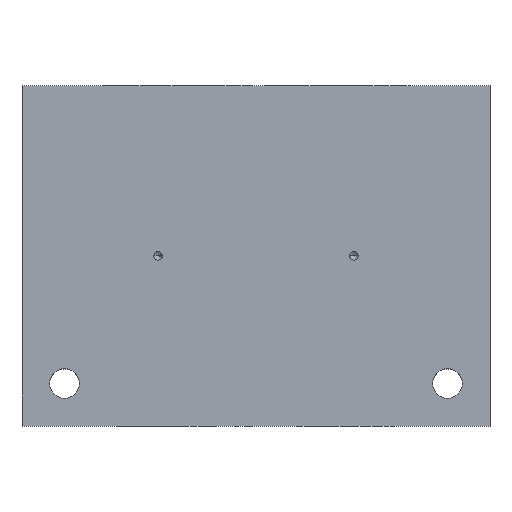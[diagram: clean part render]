
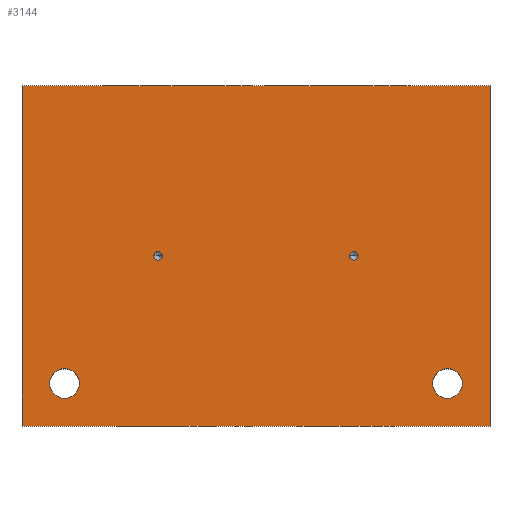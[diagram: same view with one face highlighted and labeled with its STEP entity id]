
A CAD part, top view. The second image highlights one B-rep face of the part: STEP entity #3144.
In plain terms, the highlighted planar face has unit normal (0, 0, 1).
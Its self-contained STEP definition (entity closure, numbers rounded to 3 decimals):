
#41=DIRECTION('',(0.,-1.,0.));
#42=VECTOR('',#41,80.);
#43=CARTESIAN_POINT('',(0.,80.,0.));
#44=LINE('',#43,#42);
#64=DIRECTION('',(1.,0.,0.));
#65=VECTOR('',#64,110.);
#66=CARTESIAN_POINT('',(0.,0.,0.));
#67=LINE('',#66,#65);
#103=DIRECTION('',(1.,0.,0.));
#104=VECTOR('',#103,110.);
#105=CARTESIAN_POINT('',(0.,80.,0.));
#106=LINE('',#105,#104);
#110=CARTESIAN_POINT('',(32.,40.,0.));
#111=DIRECTION('',(0.,0.,1.));
#112=DIRECTION('',(-1.,0.,0.));
#113=AXIS2_PLACEMENT_3D('',#110,#111,#112);
#118=CARTESIAN_POINT('',(32.,40.,0.));
#119=DIRECTION('',(0.,0.,1.));
#120=DIRECTION('',(1.,0.,0.));
#121=AXIS2_PLACEMENT_3D('',#118,#119,#120);
#126=CARTESIAN_POINT('',(78.,40.,0.));
#127=DIRECTION('',(0.,0.,1.));
#128=DIRECTION('',(-1.,0.,0.));
#129=AXIS2_PLACEMENT_3D('',#126,#127,#128);
#134=CARTESIAN_POINT('',(78.,40.,0.));
#135=DIRECTION('',(0.,0.,1.));
#136=DIRECTION('',(1.,0.,0.));
#137=AXIS2_PLACEMENT_3D('',#134,#135,#136);
#142=CARTESIAN_POINT('',(10.,10.,0.));
#143=DIRECTION('',(0.,0.,-1.));
#144=DIRECTION('',(-1.,0.,0.));
#145=AXIS2_PLACEMENT_3D('',#142,#143,#144);
#150=CARTESIAN_POINT('',(10.,10.,0.));
#151=DIRECTION('',(0.,0.,-1.));
#152=DIRECTION('',(1.,0.,0.));
#153=AXIS2_PLACEMENT_3D('',#150,#151,#152);
#158=CARTESIAN_POINT('',(100.,10.,0.));
#159=DIRECTION('',(0.,0.,-1.));
#160=DIRECTION('',(-1.,0.,0.));
#161=AXIS2_PLACEMENT_3D('',#158,#159,#160);
#166=CARTESIAN_POINT('',(100.,10.,0.));
#167=DIRECTION('',(0.,0.,-1.));
#168=DIRECTION('',(1.,0.,0.));
#169=AXIS2_PLACEMENT_3D('',#166,#167,#168);
#259=DIRECTION('',(0.,-1.,0.));
#260=VECTOR('',#259,80.);
#261=CARTESIAN_POINT('',(110.,80.,0.));
#262=LINE('',#261,#260);
#2766=CARTESIAN_POINT('',(0.,0.,0.));
#2768=VERTEX_POINT('',#2766);
#2772=CARTESIAN_POINT('',(0.,80.,0.));
#2773=VERTEX_POINT('',#2772);
#2774=CARTESIAN_POINT('',(110.,0.,0.));
#2776=VERTEX_POINT('',#2774);
#2780=CARTESIAN_POINT('',(110.,80.,0.));
#2781=VERTEX_POINT('',#2780);
#3004=CARTESIAN_POINT('',(31.,40.,0.));
#3005=CARTESIAN_POINT('',(33.,40.,0.));
#3006=VERTEX_POINT('',#3004);
#3007=VERTEX_POINT('',#3005);
#3014=CARTESIAN_POINT('',(77.,40.,0.));
#3015=CARTESIAN_POINT('',(79.,40.,0.));
#3016=VERTEX_POINT('',#3014);
#3017=VERTEX_POINT('',#3015);
#3022=CARTESIAN_POINT('',(6.5,10.,0.));
#3023=CARTESIAN_POINT('',(13.5,10.,0.));
#3024=VERTEX_POINT('',#3022);
#3025=VERTEX_POINT('',#3023);
#3030=CARTESIAN_POINT('',(96.5,10.,0.));
#3031=CARTESIAN_POINT('',(103.5,10.,0.));
#3032=VERTEX_POINT('',#3030);
#3033=VERTEX_POINT('',#3031);
#3107=CARTESIAN_POINT('',(0.,80.,0.));
#3108=DIRECTION('',(0.,0.,1.));
#3109=DIRECTION('',(0.,-1.,0.));
#3110=AXIS2_PLACEMENT_3D('',#3107,#3108,#3109);
#3111=PLANE('',#3110);
#3112=ORIENTED_EDGE('',*,*,#3045,.F.);
#3114=ORIENTED_EDGE('',*,*,#3113,.T.);
#3116=ORIENTED_EDGE('',*,*,#3115,.T.);
#3117=ORIENTED_EDGE('',*,*,#3074,.F.);
#3118=EDGE_LOOP('',(#3112,#3114,#3116,#3117));
#3119=FACE_OUTER_BOUND('',#3118,.F.);
#3121=ORIENTED_EDGE('',*,*,#3120,.T.);
#3123=ORIENTED_EDGE('',*,*,#3122,.T.);
#3124=EDGE_LOOP('',(#3121,#3123));
#3125=FACE_BOUND('',#3124,.F.);
#3127=ORIENTED_EDGE('',*,*,#3126,.T.);
#3129=ORIENTED_EDGE('',*,*,#3128,.T.);
#3130=EDGE_LOOP('',(#3127,#3129));
#3131=FACE_BOUND('',#3130,.F.);
#3133=ORIENTED_EDGE('',*,*,#3132,.F.);
#3135=ORIENTED_EDGE('',*,*,#3134,.F.);
#3136=EDGE_LOOP('',(#3133,#3135));
#3137=FACE_BOUND('',#3136,.F.);
#3139=ORIENTED_EDGE('',*,*,#3138,.F.);
#3141=ORIENTED_EDGE('',*,*,#3140,.F.);
#3142=EDGE_LOOP('',(#3139,#3141));
#3143=FACE_BOUND('',#3142,.F.);
#114=CIRCLE('',#113,1.);
#122=CIRCLE('',#121,1.);
#130=CIRCLE('',#129,1.);
#138=CIRCLE('',#137,1.);
#146=CIRCLE('',#145,3.5);
#154=CIRCLE('',#153,3.5);
#162=CIRCLE('',#161,3.5);
#170=CIRCLE('',#169,3.5);
#3045=EDGE_CURVE('',#2773,#2768,#44,.T.);
#3074=EDGE_CURVE('',#2768,#2776,#67,.T.);
#3113=EDGE_CURVE('',#2773,#2781,#106,.T.);
#3115=EDGE_CURVE('',#2781,#2776,#262,.T.);
#3120=EDGE_CURVE('',#3006,#3007,#114,.T.);
#3122=EDGE_CURVE('',#3007,#3006,#122,.T.);
#3126=EDGE_CURVE('',#3016,#3017,#130,.T.);
#3128=EDGE_CURVE('',#3017,#3016,#138,.T.);
#3132=EDGE_CURVE('',#3024,#3025,#146,.T.);
#3134=EDGE_CURVE('',#3025,#3024,#154,.T.);
#3138=EDGE_CURVE('',#3032,#3033,#162,.T.);
#3140=EDGE_CURVE('',#3033,#3032,#170,.T.);
#3144=ADVANCED_FACE('',(#3119,#3125,#3131,#3137,#3143),#3111,.T.);
